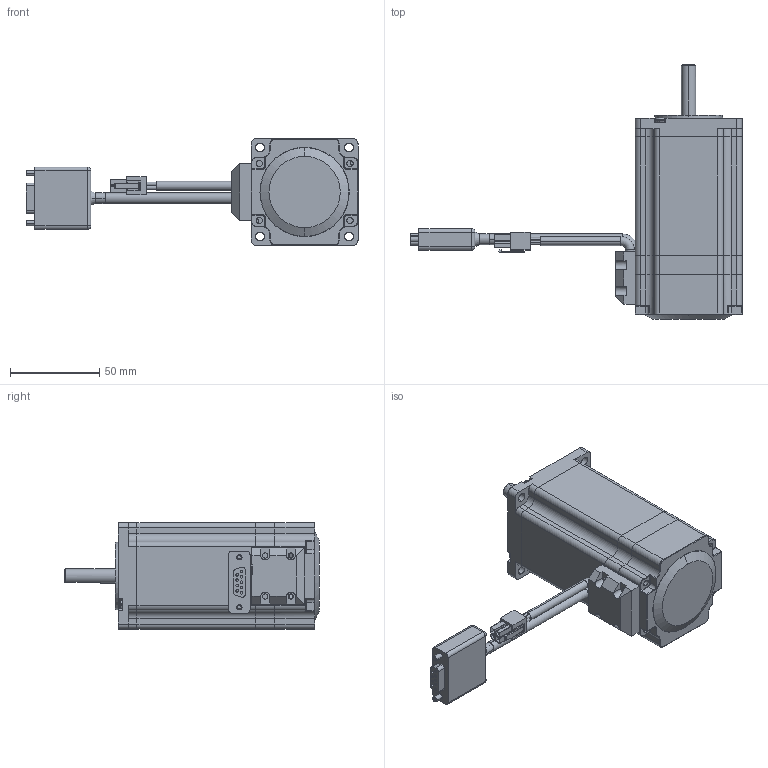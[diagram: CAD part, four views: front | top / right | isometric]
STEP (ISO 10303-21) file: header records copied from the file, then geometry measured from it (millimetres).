
FILE_DESCRIPTION (( 'STEP AP203' ), '1' );
FILE_NAME ('60HS2110-04.STEP', '2020-09-10T06:02:02', ( 'Windows' ), ( 'Microsoft' ), 'SwSTEP 2.0', 'SolidWorks 2015', '' );
FILE_SCHEMA (( 'CONFIG_CONTROL_DESIGN' ));
Length unit declared in the file: millimetre
Products named in the file (10): 晤鎢ん綴欶; DBͷ; HX42000-4R; 60BYGH255-A-8粣; 60HS2110-04; 60隅赽66.5; 60綴傷裔; 60ヶ傷裔; M3蹟隊; 23x14.5邧揤盄裔
Assembly tree (12 placements, depth 2):
  60HS2110-04
    60BYGH255-A-8粣
    60隅赽66.5
    60綴傷裔
    60ヶ傷裔
    M3蹟隊  x4
    23x14.5邧揤盄裔
    晤鎢ん綴欶
    DBͷ
    HX42000-4R
Bounding box: 186.5 x 142.8 x 60 mm (x, y, z)
Volume: 337308.1 mm3; surface area: 75618.1 mm2
Topology: 16 solids, 16 shells, 692 faces, 1714 edges, 1084 vertices
Faces by surface type: plane 336, cylinder 277, torus 35, bspline 20, cone 12, sphere 12
Entity records: 19815 total; most frequent: CARTESIAN_POINT 3461, DIRECTION 3329, ORIENTED_EDGE 3062, EDGE_CURVE 1531, AXIS2_PLACEMENT_3D 1196, VERTEX_POINT 976, VECTOR 937, LINE 937
